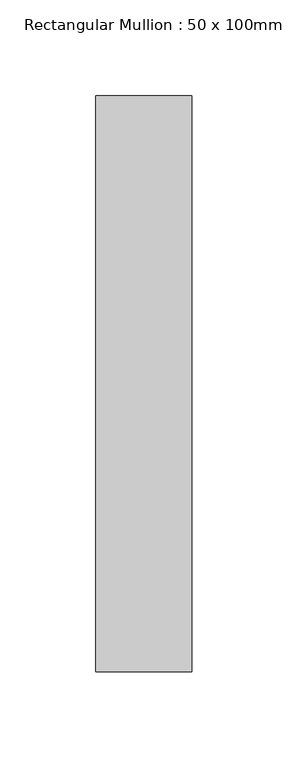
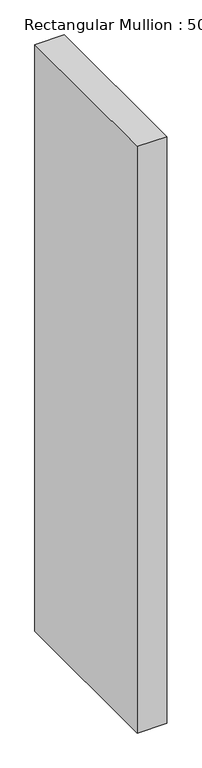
"""IFC4 building model written with IfcOpenShell, lengths in millimetres: member geometry, Rectangular Mullion : 50 x 100mm."""

import ifcopenshell
import ifcopenshell.guid

model = None  # the IFC model being written
_history = None  # IfcOwnerHistory: only IFC2X3 demands one
_inside = {}  # id of a spatial element -> (the spatial element, [elements in it])
_under = {}  # id of a project, library or spatial element -> (it, [spatial elements below it])
_declared = {}  # id of a project -> (the project, [libraries it declares])
_typed = {}  # id of a type object -> (the type object, [elements of that type])
_made_of = {}  # id of a material, layer set ... -> (it, [elements and type objects made of it])


def new_model(schema):
    """Start an empty IFC model of exactly this schema.

    Asked for "IFC4X3", IfcOpenShell would pick the latest addendum, in which some entities
    have other attributes; the version numbers below select the first issue.
    IFC2X3 requires an IfcOwnerHistory on every rooted entity: one is made here for all.
    """
    global model, _history
    if schema == "IFC4X3":
        model = ifcopenshell.file(schema_version=(4, 3, 0, 0))
    else:
        model = ifcopenshell.file(schema=schema)
    _inside.clear()
    _under.clear()
    _declared.clear()
    _typed.clear()
    _made_of.clear()
    _history = None
    if model.schema == "IFC2X3":
        org = make("IfcOrganization", Name="unknown")
        user = make(
            "IfcPersonAndOrganization",
            ThePerson=make("IfcPerson", FamilyName="unknown"),
            TheOrganization=org,
        )
        app = make(
            "IfcApplication",
            ApplicationDeveloper=org,
            Version="unknown",
            ApplicationFullName="unknown",
            ApplicationIdentifier="unknown",
        )
        _history = make(
            "IfcOwnerHistory",
            OwningUser=user,
            OwningApplication=app,
            ChangeAction="ADDED",
            CreationDate=0,
        )
    return model


def make(cls, **values):
    """One entity of the class cls with the attributes given. An attribute that is None is left unset."""
    return model.create_entity(
        cls, **{name: value for name, value in values.items() if value is not None}
    )


def rooted(cls, **values):
    """An entity with a GlobalId (a new one), such as an element, a storey or a relation."""
    return make(cls, GlobalId=ifcopenshell.guid.new(), OwnerHistory=_history, **values)


def si_unit(unit_type, name, prefix=None):
    """IfcSIUnit, for example si_unit("LENGTHUNIT", "METRE", prefix="MILLI")."""
    return make("IfcSIUnit", UnitType=unit_type, Prefix=prefix, Name=name)


def assignment(units):
    """IfcUnitAssignment: the units of a project."""
    return None if units is None else make("IfcUnitAssignment", Units=units)


def point(xyz):
    """IfcCartesianPoint."""
    return None if xyz is None else make("IfcCartesianPoint", Coordinates=xyz)


def direction(xyz):
    """IfcDirection."""
    return None if xyz is None else make("IfcDirection", DirectionRatios=xyz)


def frame(location, z_axis=None, x_axis=None):
    """IfcAxis2Placement3D, a coordinate frame: its origin and axes. An axis left out is left unset."""
    return make(
        "IfcAxis2Placement3D",
        Location=point(location),
        Axis=direction(z_axis),
        RefDirection=direction(x_axis),
    )


def origin():
    """The frame at (0, 0, 0) with its axes left unset."""
    return frame((0.0, 0.0, 0.0))


def place(relative_to, where):
    """IfcLocalPlacement: puts the frame where relative to a parent placement (None: the world)."""
    return make(
        "IfcLocalPlacement", PlacementRelTo=relative_to, RelativePlacement=where
    )


def context(
    kind, dimensions, precision=None, world=None, true_north=None, identifier=None
):
    """IfcGeometricRepresentationContext, for example the 3D "Model" context."""
    return make(
        "IfcGeometricRepresentationContext",
        ContextIdentifier=identifier,
        ContextType=kind,
        CoordinateSpaceDimension=dimensions,
        Precision=precision,
        WorldCoordinateSystem=world,
        TrueNorth=true_north,
    )


def project(units=None, contexts=None):
    """IfcProject with its units and contexts."""
    return rooted(
        "IfcProject",
        Name="project",
        RepresentationContexts=contexts,
        UnitsInContext=assignment(units),
    )


def spatial(cls, under=None, at=None, **own):
    """A site, building, storey or space (cls), placed at a placement, below another one or the project."""
    s = rooted(cls, ObjectPlacement=at, **own)
    if under is not None:
        _under.setdefault(under.id(), (under, []))[1].append(s)
    return s


def polyline(points):
    """IfcPolyline through the points."""
    return make("IfcPolyline", Points=[point(p) for p in points])


def outline(outer, holes=None, kind="AREA"):
    """IfcArbitraryClosedProfileDef: a profile drawn as a closed curve; with holes, ...WithVoids."""
    if holes is None:
        return make("IfcArbitraryClosedProfileDef", ProfileType=kind, OuterCurve=outer)
    return make(
        "IfcArbitraryProfileDefWithVoids",
        ProfileType=kind,
        OuterCurve=outer,
        InnerCurves=holes,
    )


def extrude(swept, where, along, depth):
    """IfcExtrudedAreaSolid: the profile swept, set in the frame where, extruded along a direction by depth."""
    return make(
        "IfcExtrudedAreaSolid",
        SweptArea=swept,
        Position=where,
        ExtrudedDirection=direction(along),
        Depth=depth,
    )


def shape(context_of_items, identifier, shape_type, items):
    """IfcShapeRepresentation: the items that make up one representation, for example the "Body"."""
    return make(
        "IfcShapeRepresentation",
        ContextOfItems=context_of_items,
        RepresentationIdentifier=identifier,
        RepresentationType=shape_type,
        Items=items,
    )


def source(mapping_origin, context_of_items, identifier, shape_type, items):
    """IfcRepresentationMap: a shape defined once, which mapped items show again and again."""
    return make(
        "IfcRepresentationMap",
        MappingOrigin=mapping_origin,
        MappedRepresentation=shape(context_of_items, identifier, shape_type, items),
    )


def transform(
    local_origin,
    x_axis=None,
    y_axis=None,
    z_axis=None,
    scale=None,
    scale2=None,
    scale3=None,
    uniform=True,
):
    """IfcCartesianTransformationOperator3D, or its non-uniform kind. x_axis, y_axis, z_axis: its Axis1, 2, 3."""
    if uniform:
        return make(
            "IfcCartesianTransformationOperator3D",
            Axis1=direction(x_axis),
            Axis2=direction(y_axis),
            LocalOrigin=point(local_origin),
            Scale=scale,
            Axis3=direction(z_axis),
        )
    return make(
        "IfcCartesianTransformationOperator3DnonUniform",
        Axis1=direction(x_axis),
        Axis2=direction(y_axis),
        LocalOrigin=point(local_origin),
        Scale=scale,
        Axis3=direction(z_axis),
        Scale2=scale2,
        Scale3=scale3,
    )


def mapped(mapping_source, mapping_target):
    """IfcMappedItem: shows the shape of a source again, moved by a transform."""
    return make(
        "IfcMappedItem", MappingSource=mapping_source, MappingTarget=mapping_target
    )


def made_of(thing, what):
    """Note that an element or type object is made of a material, layer set ...; save() writes the relation."""
    if what is not None:
        _made_of.setdefault(what.id(), (what, []))[1].append(thing)
    return thing


def element(
    cls,
    number,
    at=None,
    inside=None,
    cuts=None,
    type_object=None,
    material=None,
    context=None,
    identifier="Body",
    shape_type=None,
    held_by="IfcProductDefinitionShape",
    body=None,
    shapes=None,
    **own,
):
    """One element of the class cls, such as IfcWall. Its Tag is "e" and its number.

    at: its placement. inside: the storey or other place that contains it. cuts: it is an
    opening in that element (IfcRelVoidsElement). A single representation is given by context,
    identifier, shape_type and body (its items); several are given by shapes. held_by: the class
    of the entity that holds the representations. save() writes the other relations.
    """
    e = rooted(cls, Tag="e%d" % number, ObjectPlacement=at, **own)
    if body is not None:
        shapes = [shape(context, identifier, shape_type, body)]
    if shapes is not None:
        e.Representation = make(held_by, Representations=shapes)
    if inside is not None:
        _inside.setdefault(inside.id(), (inside, []))[1].append(e)
    if cuts is not None:
        rooted(
            "IfcRelVoidsElement", RelatingBuildingElement=cuts, RelatedOpeningElement=e
        )
    if type_object is not None:
        _typed.setdefault(type_object.id(), (type_object, []))[1].append(e)
    return made_of(e, material)


def aggregate(whole, parts):
    """IfcRelAggregates: a whole, such as a stair, and the parts it consists of."""
    return rooted("IfcRelAggregates", RelatingObject=whole, RelatedObjects=parts)


def save(model, path):
    """Write the relations noted so far, then the file.

    IfcRelAggregates (storeys below a building ...), IfcRelContainedInSpatialStructure (elements
    in a storey), IfcRelDefinesByType, IfcRelAssociatesMaterial and IfcRelDeclares: one each for
    every whole, place, type object, material and project.
    """
    for whole, parts in _under.values():
        aggregate(whole, parts)
    for where, things in _inside.values():
        rooted(
            "IfcRelContainedInSpatialStructure",
            RelatedElements=things,
            RelatingStructure=where,
        )
    for kind, things in _typed.values():
        rooted("IfcRelDefinesByType", RelatedObjects=things, RelatingType=kind)
    for what, things in _made_of.values():
        rooted("IfcRelAssociatesMaterial", RelatedObjects=things, RelatingMaterial=what)
    for by, libraries in _declared.values():
        rooted("IfcRelDeclares", RelatingContext=by, RelatedDefinitions=libraries)
    model.write(path)


def rectangular_mullion_50_x_100mm_32921d9c(model_context):
    return source(origin(), model_context, "Body", "SweptSolid", [
        extrude(outline(polyline([(0.0, 175.0), (0.0, -125.0), (-50.0, -125.0), (-50.0, 175.0), (0.0, 175.0)])), frame((0.0, 0.0, -1050.0), z_axis=(0.0, 0.0, 1.0), x_axis=(1.0, 0.0, 0.0)), (0.0, 0.0, 1.0), 1050.0),
    ])


if __name__ == "__main__":
    model = new_model("IFC4")
    model_context = context("Model", 3, world=origin())
    ifc_project = project(units=[si_unit("LENGTHUNIT", "METRE", prefix="MILLI")], contexts=[model_context])
    site = spatial("IfcSite", under=ifc_project)
    building = spatial("IfcBuilding", under=site)
    placement = place(None, origin())
    rectangular_mullion_50_x_100mm_shape = rectangular_mullion_50_x_100mm_32921d9c(model_context)
    element("IfcMember", 1, ObjectType="Rectangular Mullion : 50 x 100mm", at=placement, inside=building, context=model_context, shape_type="MappedRepresentation", body=[
        mapped(rectangular_mullion_50_x_100mm_shape, transform((0.0, 0.0, 0.0), x_axis=(1.0, 0.0, 0.0), y_axis=(0.0, 1.0, 0.0), z_axis=(0.0, 0.0, 1.0))),
    ])
    save(model, "model.ifc")
